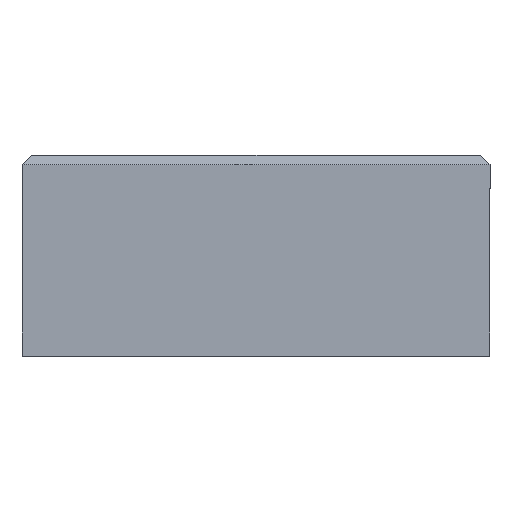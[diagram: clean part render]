
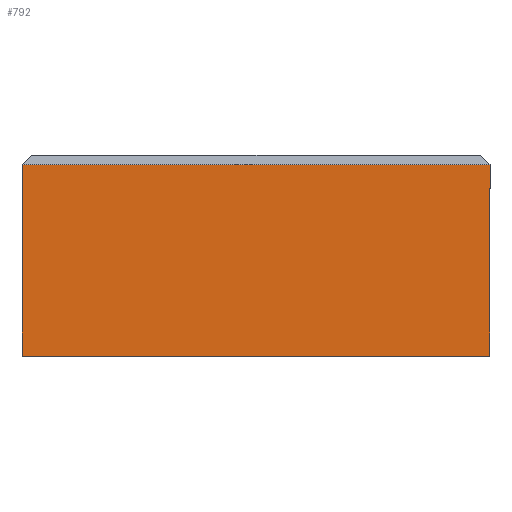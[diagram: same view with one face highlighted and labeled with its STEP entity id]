
A CAD part, top view. The second image highlights one B-rep face of the part: STEP entity #792.
In plain terms, the highlighted planar face has unit normal (0, 0, 1).
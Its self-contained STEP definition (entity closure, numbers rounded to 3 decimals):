
#108 = CARTESIAN_POINT ( 'NONE',  ( 0., 0., 0. ) ) ;
#116 = AXIS2_PLACEMENT_3D ( 'NONE', #761, #444, #201 ) ;
#195 = CARTESIAN_POINT ( 'NONE',  ( 28.645, 12.3, 0. ) ) ;
#201 = DIRECTION ( 'NONE',  ( 1., 0., 0. ) ) ;
#243 = LINE ( 'NONE', #195, #264 ) ;
#245 = VERTEX_POINT ( 'NONE', #987 ) ;
#251 = EDGE_CURVE ( 'NONE', #840, #625, #658, .T. ) ;
#264 = VECTOR ( 'NONE', #1394, 1000. ) ;
#292 = FACE_OUTER_BOUND ( 'NONE', #562, .T. ) ;
#387 = LINE ( 'NONE', #511, #578 ) ;
#424 = ORIENTED_EDGE ( 'NONE', *, *, #529, .F. ) ;
#444 = DIRECTION ( 'NONE',  ( 0., 0., 1. ) ) ;
#511 = CARTESIAN_POINT ( 'NONE',  ( 0., 11.7, 0. ) ) ;
#519 = DIRECTION ( 'NONE',  ( -1., 0., 0. ) ) ;
#529 = EDGE_CURVE ( 'NONE', #245, #625, #243, .T. ) ;
#560 = ORIENTED_EDGE ( 'NONE', *, *, #251, .T. ) ;
#562 = EDGE_LOOP ( 'NONE', ( #560, #424, #770, #1142 ) ) ;
#578 = VECTOR ( 'NONE', #519, 1000. ) ;
#625 = VERTEX_POINT ( 'NONE', #1184 ) ;
#658 = LINE ( 'NONE', #783, #674 ) ;
#674 = VECTOR ( 'NONE', #1009, 1000. ) ;
#691 = EDGE_CURVE ( 'NONE', #245, #1059, #387, .T. ) ;
#715 = VECTOR ( 'NONE', #776, 1000. ) ;
#747 = LINE ( 'NONE', #883, #715 ) ;
#761 = CARTESIAN_POINT ( 'NONE',  ( 0., 12.3, 0. ) ) ;
#770 = ORIENTED_EDGE ( 'NONE', *, *, #691, .T. ) ;
#776 = DIRECTION ( 'NONE',  ( 0., 1., 0. ) ) ;
#783 = CARTESIAN_POINT ( 'NONE',  ( 0., 0., 0. ) ) ;
#792 = ADVANCED_FACE ( 'NONE', ( #292 ), #1318, .T. ) ;
#835 = EDGE_CURVE ( 'NONE', #840, #1059, #747, .T. ) ;
#840 = VERTEX_POINT ( 'NONE', #108 ) ;
#883 = CARTESIAN_POINT ( 'NONE',  ( 0., 12.3, 0. ) ) ;
#987 = CARTESIAN_POINT ( 'NONE',  ( 28.645, 11.7, 0. ) ) ;
#1009 = DIRECTION ( 'NONE',  ( 1., 0., 0. ) ) ;
#1059 = VERTEX_POINT ( 'NONE', #1151 ) ;
#1142 = ORIENTED_EDGE ( 'NONE', *, *, #835, .F. ) ;
#1151 = CARTESIAN_POINT ( 'NONE',  ( 0., 11.7, 0. ) ) ;
#1184 = CARTESIAN_POINT ( 'NONE',  ( 28.645, 0., 0. ) ) ;
#1318 = PLANE ( 'NONE',  #116 ) ;
#1394 = DIRECTION ( 'NONE',  ( 0., -1., 0. ) ) ;
